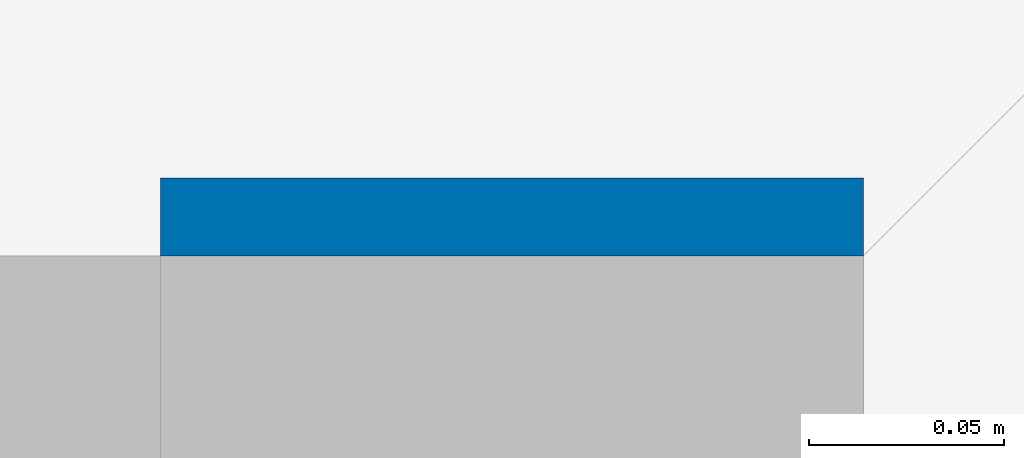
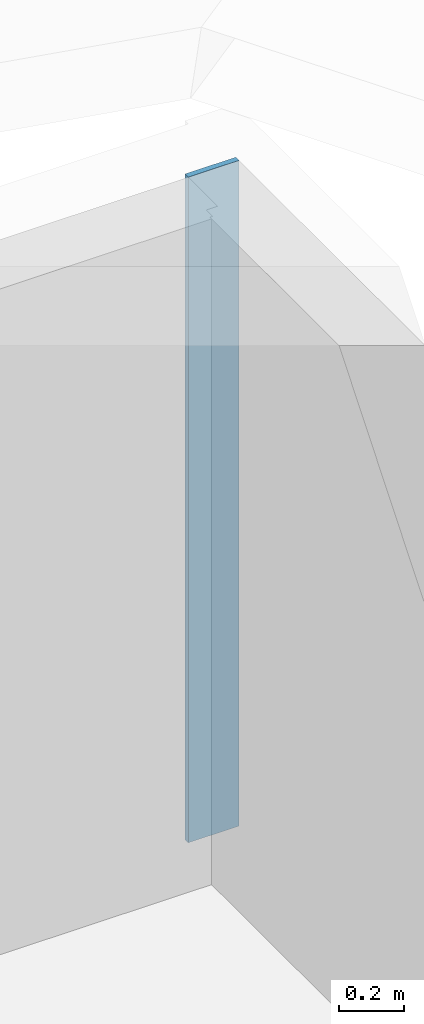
# One storey, part 6 of 10: 1 wall.
"""IFC2X3 building model written with IfcOpenShell, lengths in metres."""

import ifcopenshell
import ifcopenshell.guid

model = None  # the IFC model being written
_history = None  # IfcOwnerHistory: only IFC2X3 demands one
_inside = {}  # id of a spatial element -> (the spatial element, [elements in it])
_under = {}  # id of a project, library or spatial element -> (it, [spatial elements below it])
_declared = {}  # id of a project -> (the project, [libraries it declares])
_typed = {}  # id of a type object -> (the type object, [elements of that type])
_made_of = {}  # id of a material, layer set ... -> (it, [elements and type objects made of it])


def new_model(schema):
    """Start an empty IFC model of exactly this schema.

    Asked for "IFC4X3", IfcOpenShell would pick the latest addendum, in which some entities
    have other attributes; the version numbers below select the first issue.
    IFC2X3 requires an IfcOwnerHistory on every rooted entity: one is made here for all.
    """
    global model, _history
    if schema == "IFC4X3":
        model = ifcopenshell.file(schema_version=(4, 3, 0, 0))
    else:
        model = ifcopenshell.file(schema=schema)
    _inside.clear()
    _under.clear()
    _declared.clear()
    _typed.clear()
    _made_of.clear()
    _history = None
    if model.schema == "IFC2X3":
        org = make("IfcOrganization", Name="unknown")
        user = make(
            "IfcPersonAndOrganization",
            ThePerson=make("IfcPerson", FamilyName="unknown"),
            TheOrganization=org,
        )
        app = make(
            "IfcApplication",
            ApplicationDeveloper=org,
            Version="unknown",
            ApplicationFullName="unknown",
            ApplicationIdentifier="unknown",
        )
        _history = make(
            "IfcOwnerHistory",
            OwningUser=user,
            OwningApplication=app,
            ChangeAction="ADDED",
            CreationDate=0,
        )
    return model


def make(cls, **values):
    """One entity of the class cls with the attributes given. An attribute that is None is left unset."""
    return model.create_entity(
        cls, **{name: value for name, value in values.items() if value is not None}
    )


def rooted(cls, **values):
    """An entity with a GlobalId (a new one), such as an element, a storey or a relation."""
    return make(cls, GlobalId=ifcopenshell.guid.new(), OwnerHistory=_history, **values)


def si_unit(unit_type, name, prefix=None):
    """IfcSIUnit, for example si_unit("LENGTHUNIT", "METRE", prefix="MILLI")."""
    return make("IfcSIUnit", UnitType=unit_type, Prefix=prefix, Name=name)


def assignment(units):
    """IfcUnitAssignment: the units of a project."""
    return None if units is None else make("IfcUnitAssignment", Units=units)


def point(xyz):
    """IfcCartesianPoint."""
    return None if xyz is None else make("IfcCartesianPoint", Coordinates=xyz)


def direction(xyz):
    """IfcDirection."""
    return None if xyz is None else make("IfcDirection", DirectionRatios=xyz)


def frame(location, z_axis=None, x_axis=None):
    """IfcAxis2Placement3D, a coordinate frame: its origin and axes. An axis left out is left unset."""
    return make(
        "IfcAxis2Placement3D",
        Location=point(location),
        Axis=direction(z_axis),
        RefDirection=direction(x_axis),
    )


def frame_2d(location, x_axis=None):
    """IfcAxis2Placement2D, a coordinate frame in the plane: its origin and x axis."""
    return make(
        "IfcAxis2Placement2D", Location=point(location), RefDirection=direction(x_axis)
    )


def origin():
    """The frame at (0, 0, 0) with its axes left unset."""
    return frame((0.0, 0.0, 0.0))


def place(relative_to, where):
    """IfcLocalPlacement: puts the frame where relative to a parent placement (None: the world)."""
    return make(
        "IfcLocalPlacement", PlacementRelTo=relative_to, RelativePlacement=where
    )


def context(
    kind, dimensions, precision=None, world=None, true_north=None, identifier=None
):
    """IfcGeometricRepresentationContext, for example the 3D "Model" context."""
    return make(
        "IfcGeometricRepresentationContext",
        ContextIdentifier=identifier,
        ContextType=kind,
        CoordinateSpaceDimension=dimensions,
        Precision=precision,
        WorldCoordinateSystem=world,
        TrueNorth=true_north,
    )


def project(units=None, contexts=None):
    """IfcProject with its units and contexts."""
    return rooted(
        "IfcProject",
        Name="project",
        RepresentationContexts=contexts,
        UnitsInContext=assignment(units),
    )


def spatial(cls, under=None, at=None, **own):
    """A site, building, storey or space (cls), placed at a placement, below another one or the project."""
    s = rooted(cls, ObjectPlacement=at, **own)
    if under is not None:
        _under.setdefault(under.id(), (under, []))[1].append(s)
    return s


def profile(cls, at=None, kind="AREA", **sizes):
    """A parametric profile (cls). Its sizes go by their IFC names, for example OverallWidth=200.0."""
    return make(cls, ProfileType=kind, Position=at, **sizes)


def rectangle(**sizes):
    """IfcRectangleProfileDef."""
    return profile("IfcRectangleProfileDef", **sizes)


def extrude(swept, where, along, depth):
    """IfcExtrudedAreaSolid: the profile swept, set in the frame where, extruded along a direction by depth."""
    return make(
        "IfcExtrudedAreaSolid",
        SweptArea=swept,
        Position=where,
        ExtrudedDirection=direction(along),
        Depth=depth,
    )


def shape(context_of_items, identifier, shape_type, items):
    """IfcShapeRepresentation: the items that make up one representation, for example the "Body"."""
    return make(
        "IfcShapeRepresentation",
        ContextOfItems=context_of_items,
        RepresentationIdentifier=identifier,
        RepresentationType=shape_type,
        Items=items,
    )


def made_of(thing, what):
    """Note that an element or type object is made of a material, layer set ...; save() writes the relation."""
    if what is not None:
        _made_of.setdefault(what.id(), (what, []))[1].append(thing)
    return thing


def element(
    cls,
    number,
    at=None,
    inside=None,
    cuts=None,
    type_object=None,
    material=None,
    context=None,
    identifier="Body",
    shape_type=None,
    held_by="IfcProductDefinitionShape",
    body=None,
    shapes=None,
    **own,
):
    """One element of the class cls, such as IfcWall. Its Tag is "e" and its number.

    at: its placement. inside: the storey or other place that contains it. cuts: it is an
    opening in that element (IfcRelVoidsElement). A single representation is given by context,
    identifier, shape_type and body (its items); several are given by shapes. held_by: the class
    of the entity that holds the representations. save() writes the other relations.
    """
    e = rooted(cls, Tag="e%d" % number, ObjectPlacement=at, **own)
    if body is not None:
        shapes = [shape(context, identifier, shape_type, body)]
    if shapes is not None:
        e.Representation = make(held_by, Representations=shapes)
    if inside is not None:
        _inside.setdefault(inside.id(), (inside, []))[1].append(e)
    if cuts is not None:
        rooted(
            "IfcRelVoidsElement", RelatingBuildingElement=cuts, RelatedOpeningElement=e
        )
    if type_object is not None:
        _typed.setdefault(type_object.id(), (type_object, []))[1].append(e)
    return made_of(e, material)


def aggregate(whole, parts):
    """IfcRelAggregates: a whole, such as a stair, and the parts it consists of."""
    return rooted("IfcRelAggregates", RelatingObject=whole, RelatedObjects=parts)


def save(model, path):
    """Write the relations noted so far, then the file.

    IfcRelAggregates (storeys below a building ...), IfcRelContainedInSpatialStructure (elements
    in a storey), IfcRelDefinesByType, IfcRelAssociatesMaterial and IfcRelDeclares: one each for
    every whole, place, type object, material and project.
    """
    for whole, parts in _under.values():
        aggregate(whole, parts)
    for where, things in _inside.values():
        rooted(
            "IfcRelContainedInSpatialStructure",
            RelatedElements=things,
            RelatingStructure=where,
        )
    for kind, things in _typed.values():
        rooted("IfcRelDefinesByType", RelatedObjects=things, RelatingType=kind)
    for what, things in _made_of.values():
        rooted("IfcRelAssociatesMaterial", RelatedObjects=things, RelatingMaterial=what)
    for by, libraries in _declared.values():
        rooted("IfcRelDeclares", RelatingContext=by, RelatedDefinitions=libraries)
    model.write(path)


model = new_model("IFC2X3")

# Units and contexts
model_context = context("Model", 3, precision=1e-06, world=origin())
ifc_project = project(units=[si_unit("LENGTHUNIT", "METRE"), si_unit("PLANEANGLEUNIT", "RADIAN")], contexts=[model_context])

# Site, building, storey
site = spatial("IfcSite", under=ifc_project, CompositionType="ELEMENT")
building = spatial("IfcBuilding", under=site, CompositionType="ELEMENT")
storey = spatial("IfcBuildingStorey", under=building, Name="r+3", CompositionType="ELEMENT", Elevation=8.1)

# Wall
placement = place(None, origin())
wall_placement = place(placement, frame((39.69999999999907, 10.470077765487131, 8.1), z_axis=(0.0, 0.0, 1.0), x_axis=(-1.0, 0.0, 0.0)))
element("IfcWall", 1, at=wall_placement, inside=storey, context=model_context, shape_type="SweptSolid", body=[
    extrude(rectangle(XDim=0.18, YDim=0.020000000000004, at=frame_2d((0.09, 0.010000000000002), x_axis=(1.0, 0.0)), kind="CURVE"), frame((0.0, -0.020000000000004, 0.0), z_axis=(0.0, 0.0, 1.0), x_axis=(1.0, 0.0, 0.0)), (0.0, 0.0, 1.0), 2.5),
])

save(model, "model.ifc")
